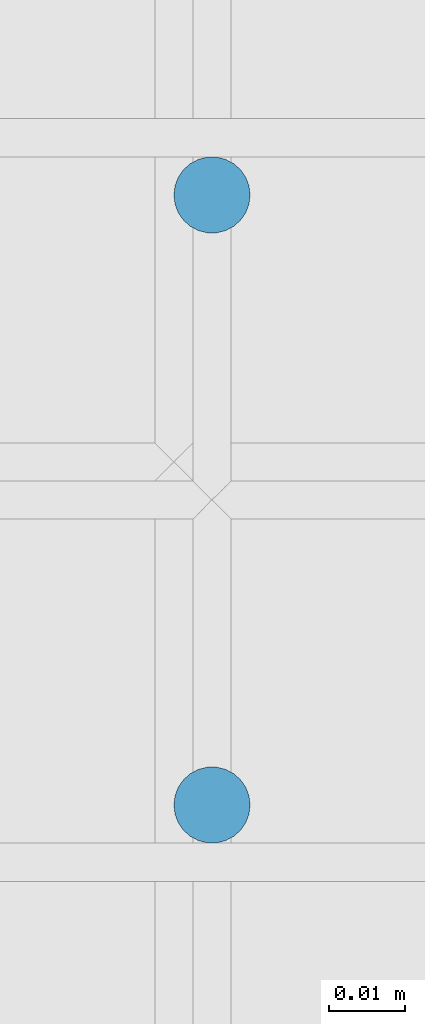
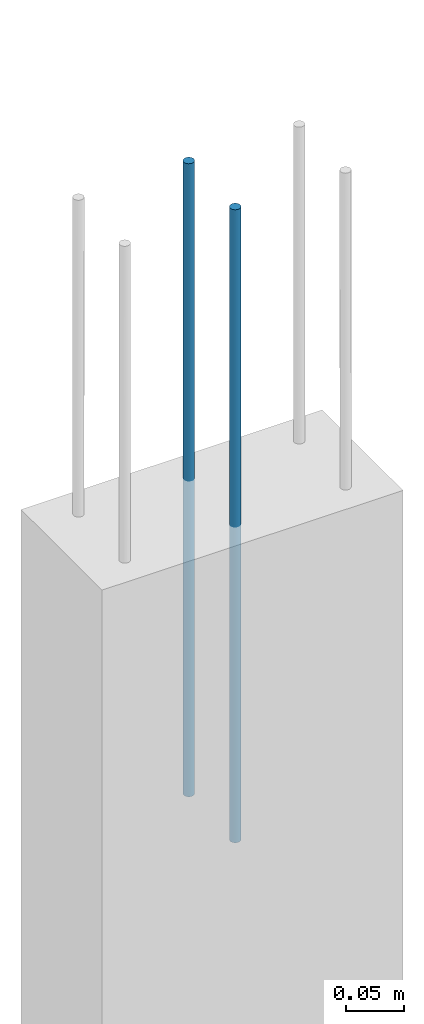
# One storey, part 72 of 119: 2 reinforcing bars.
"""IFC4 building model written with IfcOpenShell, lengths in centimetres."""

from ifc_helpers import new_model, entity, si_unit, derived_unit, frame, origin_with_axes, place, context, project, spatial, element, save


model = new_model("IFC4")

# Units and contexts
model_context = context("Model", 3, precision=1e-05, world=origin_with_axes(), identifier="Body")
ifc_project = project(units=[si_unit("LENGTHUNIT", "METRE", prefix="CENTI"), si_unit("VOLUMEUNIT", "CUBIC_METRE"), si_unit("AREAUNIT", "SQUARE_METRE"), si_unit("POWERUNIT", "WATT"), si_unit("LUMINOUSFLUXUNIT", "LUMEN"), si_unit("ELECTRICCURRENTUNIT", "AMPERE"), si_unit("PRESSUREUNIT", "PASCAL", prefix="KILO"), si_unit("MASSUNIT", "GRAM", prefix="KILO"), si_unit("PLANEANGLEUNIT", "RADIAN"), derived_unit("VOLUMETRICFLOWRATEUNIT", [(si_unit("LENGTHUNIT", "METRE"), 3), (si_unit("TIMEUNIT", "SECOND"), -1)])], contexts=[model_context])

# Site, building, storey
site_placement = place(None, frame((-4000.0, 0.0, 0.0), z_axis=(0.0, 0.0, 1.0), x_axis=(1.0, 0.0, 0.0)))
site = spatial("IfcSite", under=ifc_project, at=site_placement, Name="PADRÃO")
building_placement = place(site_placement, frame((0.0, 0.0, -14.0)))
building = spatial("IfcBuilding", under=site, at=building_placement, Name="CRECHE PRÉ-ESCOLA TIPO 2")
storey_placement = place(building_placement, origin_with_axes())
storey = spatial("IfcBuildingStorey", under=building, at=storey_placement, Name="FUNDAÇÃO", CompositionType="ELEMENT", Elevation=-14.0)

# Reinforcing bars
for number, where, z_axis, x_axis, name in (
    (1, (269.5, 1305.5, 33.3573001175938), (0.0, 0.0, 1.0), (1.0, 0.0, 0.0), "P106 - Longitudinal"),
    (2, (269.5, 1297.5, 33.3573001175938), (0.0, 0.0, 1.0), (1.0, 0.0, 0.0), "P106 - Longitudinal"),
):
    element("IfcReinforcingBar", number, at=place(storey_placement, frame(where, z_axis=z_axis, x_axis=x_axis)), inside=storey, Name=name, BarLength=0.0, CrossSectionArea=7.853981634e-05, NominalDiameter=1.0, PredefinedType="MAIN", context=model_context, shape_type="AdvancedSweptSolid", body=[
        entity("IfcSweptDiskSolid", entity("IfcCompositeCurve", [entity("IfcCompositeCurveSegment", "CONTINUOUS", True, entity("IfcPolyline", [entity("IfcCartesianPoint", [0.0, 0.0, -66.7146002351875]), entity("IfcCartesianPoint", [0.0, 0.0, 0.0])]))], False), 0.5),
    ])

save(model, "model.ifc")
